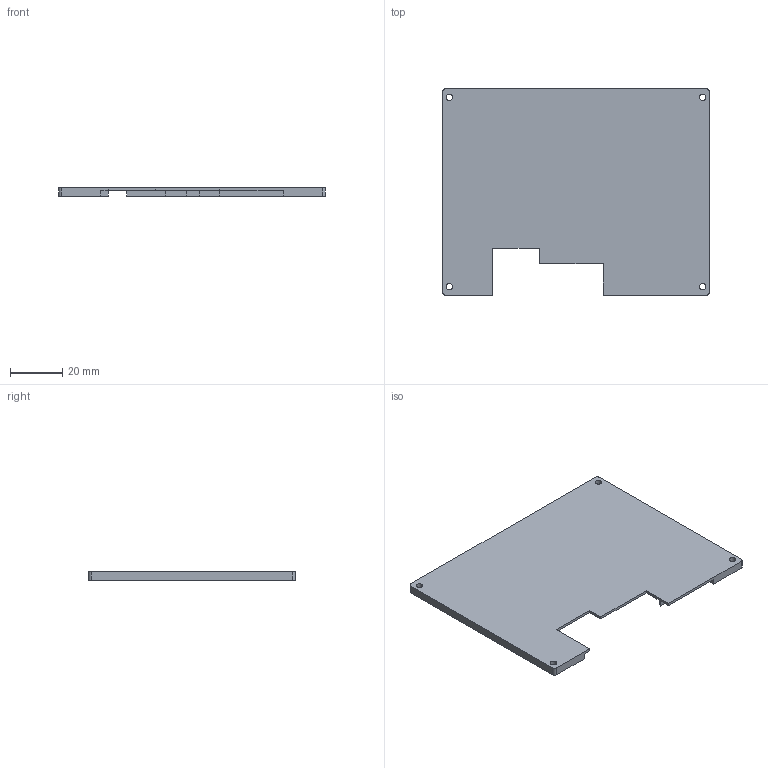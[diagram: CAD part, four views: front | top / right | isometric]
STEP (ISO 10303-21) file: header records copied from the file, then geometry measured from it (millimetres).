
FILE_DESCRIPTION(/* description */ ('STEP AP242','CAx-IF Rec.Pracs.---Representation and Presentation of Product Manufacturing Information (PMI)---4.0---2014-10-13','CAx-IF Rec.Pracs.---3D Tessellated Geometry---0.4---2014-09-14','2;1'),/* implementation_level */ '2;1');
FILE_NAME(/* name */ '676d3c53a686895630a1f60a',/* time_stamp */ '2024-12-26T11:21:56Z',/* author */ (''),/* organization */ (''),/* preprocessor_version */ 'ST-DEVELOPER v20',/* originating_system */ 'ONSHAPE BY PTC INC, 1.191',/* authorisation */ ' ');
FILE_SCHEMA (('AP242_MANAGED_MODEL_BASED_3D_ENGINEERING_MIM_LF { 1 0 10303 442 1 1 4 }'));
Length unit declared in the file: metre
Products named in the file (1): E-Ink Holder
Bounding box: 102 x 79 x 3.2 mm (x, y, z)
Volume: 10833.9 mm3; surface area: 16812.7 mm2
Topology: 1 solids, 1 shells, 49 faces, 138 edges, 92 vertices
Faces by surface type: plane 41, cylinder 8
Full cylindrical faces by diameter (mm): 2.5 x4
Entity records: 1586 total; most frequent: CARTESIAN_POINT 276, ORIENTED_EDGE 268, DIRECTION 250, EDGE_CURVE 134, LINE 118, VECTOR 118, VERTEX_POINT 92, AXIS2_PLACEMENT_3D 66
